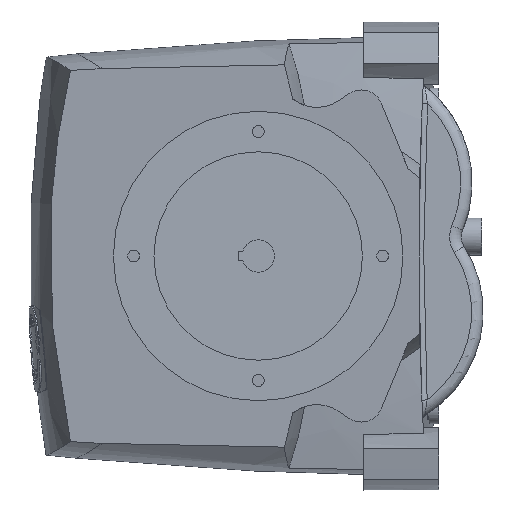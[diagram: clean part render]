
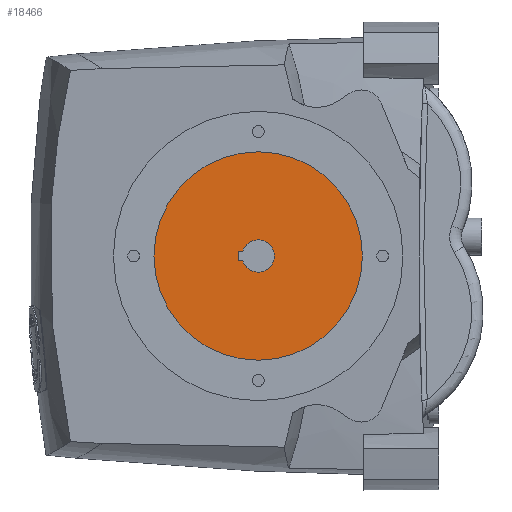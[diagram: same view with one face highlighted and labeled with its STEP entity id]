
A CAD part, left-side view. The second image highlights one B-rep face of the part: STEP entity #18466.
In plain terms, the highlighted planar face has unit normal (-1, 0, 0).
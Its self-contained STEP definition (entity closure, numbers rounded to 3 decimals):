
#6541=CARTESIAN_POINT('',(-444.1,71.934,186.364));
#6542=DIRECTION('',(-1.,0.,0.));
#6543=DIRECTION('',(0.,1.,0.));
#6544=AXIS2_PLACEMENT_3D('',#6541,#6542,#6543);
#6554=CARTESIAN_POINT('',(-444.1,71.934,186.364));
#6555=DIRECTION('',(1.,0.,0.));
#6556=DIRECTION('',(0.,1.,0.));
#6557=AXIS2_PLACEMENT_3D('',#6554,#6555,#6556);
#6559=DIRECTION('',(0.,1.,0.));
#6560=VECTOR('',#6559,3.884);
#6561=CARTESIAN_POINT('',(-444.1,85.35,190.364));
#6562=LINE('',#6561,#6560);
#6563=DIRECTION('',(0.,0.,-1.));
#6564=VECTOR('',#6563,8.);
#6565=CARTESIAN_POINT('',(-444.1,89.234,190.364));
#6566=LINE('',#6565,#6564);
#6567=DIRECTION('',(0.,-1.,0.));
#6568=VECTOR('',#6567,3.884);
#6569=CARTESIAN_POINT('',(-444.1,89.234,182.364));
#6570=LINE('',#6569,#6568);
#6571=CARTESIAN_POINT('',(-444.1,71.934,186.364));
#6572=DIRECTION('',(-1.,0.,0.));
#6573=DIRECTION('',(0.,0.958,-0.286));
#6574=AXIS2_PLACEMENT_3D('',#6571,#6572,#6573);
#7787=CARTESIAN_POINT('',(-444.1,161.934,186.364));
#7789=VERTEX_POINT('',#7787);
#7795=CARTESIAN_POINT('',(-444.1,-18.066,
186.364));
#7797=VERTEX_POINT('',#7795);
#7811=CARTESIAN_POINT('',(-444.1,85.35,190.364));
#7812=CARTESIAN_POINT('',(-444.1,89.234,190.364));
#7813=VERTEX_POINT('',#7811);
#7814=VERTEX_POINT('',#7812);
#7815=CARTESIAN_POINT('',(-444.1,89.234,182.364));
#7816=VERTEX_POINT('',#7815);
#7817=CARTESIAN_POINT('',(-444.1,85.35,182.364));
#7818=VERTEX_POINT('',#7817);
#18447=CARTESIAN_POINT('',(-444.1,71.934,
186.364));
#18448=DIRECTION('',(-1.,0.,0.));
#18449=DIRECTION('',(0.,-1.,0.));
#18450=AXIS2_PLACEMENT_3D('',#18447,#18448,#18449);
#18451=PLANE('',#18450);
#18452=ORIENTED_EDGE('',*,*,#18442,.T.);
#18453=ORIENTED_EDGE('',*,*,#18426,.F.);
#18454=EDGE_LOOP('',(#18452,#18453));
#18455=FACE_OUTER_BOUND('',#18454,.F.);
#18457=ORIENTED_EDGE('',*,*,#18456,.T.);
#18459=ORIENTED_EDGE('',*,*,#18458,.T.);
#18461=ORIENTED_EDGE('',*,*,#18460,.T.);
#18463=ORIENTED_EDGE('',*,*,#18462,.T.);
#18464=EDGE_LOOP('',(#18457,#18459,#18461,#18463));
#18465=FACE_BOUND('',#18464,.F.);
#18466=ADVANCED_FACE('',(#18455,#18465),#18451,.T.);
#6545=CIRCLE('',#6544,90.);
#6558=CIRCLE('',#6557,90.);
#6575=CIRCLE('',#6574,14.);
#18426=EDGE_CURVE('',#7789,#7797,#6545,.T.);
#18442=EDGE_CURVE('',#7789,#7797,#6558,.T.);
#18456=EDGE_CURVE('',#7813,#7814,#6562,.T.);
#18458=EDGE_CURVE('',#7814,#7816,#6566,.T.);
#18460=EDGE_CURVE('',#7816,#7818,#6570,.T.);
#18462=EDGE_CURVE('',#7818,#7813,#6575,.T.);
